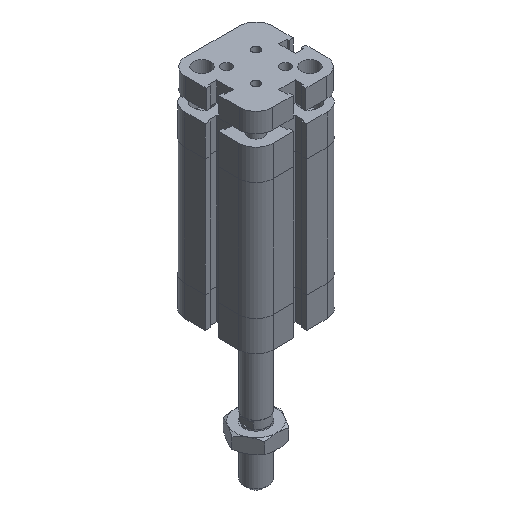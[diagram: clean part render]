
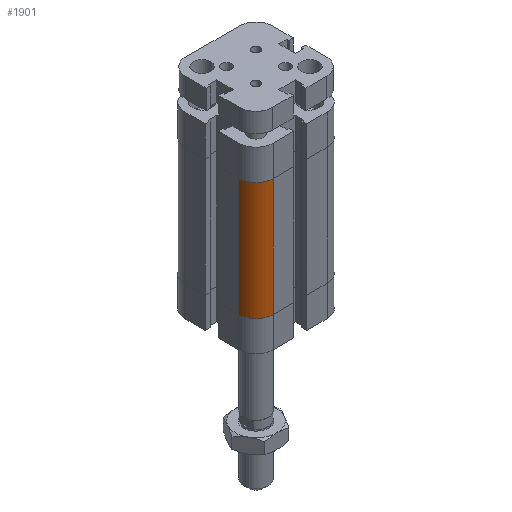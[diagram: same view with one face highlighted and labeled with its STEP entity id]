
A CAD part, isometric view. The second image highlights one B-rep face of the part: STEP entity #1901.
In plain terms, the highlighted cylindrical face has radius 7 mm (diameter 14 mm), a partial arc.
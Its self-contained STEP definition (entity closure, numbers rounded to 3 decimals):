
#1812=CARTESIAN_POINT('',(-18.,-11.0,12.5));
#1813=VERTEX_POINT('',#1812);
#1820=CARTESIAN_POINT('',(-18.,-11.0,60.5));
#1821=VERTEX_POINT('',#1820);
#1822=CARTESIAN_POINT('',(-18.,-11.0,12.5));
#1823=DIRECTION('',(0.0,0.0,1.0));
#1824=VECTOR('',#1823,48.);
#1825=LINE('',#1822,#1824);
#1826=EDGE_CURVE('',#1813,#1821,#1825,.T.);
#1869=CARTESIAN_POINT('',(-11.0,-11.0,0.0));
#1870=DIRECTION('',(0.0,0.0,1.0));
#1871=DIRECTION('',(1.0,0.0,0.0));
#1872=AXIS2_PLACEMENT_3D('',#1869,#1870,#1871);
#1873=CYLINDRICAL_SURFACE('',#1872,7.0);
#1874=CARTESIAN_POINT('',(-11.0,-18.,12.5));
#1875=VERTEX_POINT('',#1874);
#1876=CARTESIAN_POINT('',(-11.0,-11.0,12.5));
#1877=DIRECTION('',(0.0,0.0,1.0));
#1878=DIRECTION('',(1.0,0.0,0.0));
#1879=AXIS2_PLACEMENT_3D('',#1876,#1877,#1878);
#1880=CIRCLE('',#1879,7.0);
#1881=EDGE_CURVE('',#1813,#1875,#1880,.T.);
#1882=ORIENTED_EDGE('',*,*,#1881,.T.);
#1883=CARTESIAN_POINT('',(-11.0,-18.,60.5));
#1884=VERTEX_POINT('',#1883);
#1885=CARTESIAN_POINT('',(-11.0,-18.,12.5));
#1886=DIRECTION('',(0.0,0.0,1.0));
#1887=VECTOR('',#1886,48.);
#1888=LINE('',#1885,#1887);
#1889=EDGE_CURVE('',#1875,#1884,#1888,.T.);
#1890=ORIENTED_EDGE('',*,*,#1889,.T.);
#1891=CARTESIAN_POINT('',(-11.0,-11.0,60.5));
#1892=DIRECTION('',(0.0,0.0,1.0));
#1893=DIRECTION('',(1.0,0.0,0.0));
#1894=AXIS2_PLACEMENT_3D('',#1891,#1892,#1893);
#1895=CIRCLE('',#1894,7.0);
#1896=EDGE_CURVE('',#1821,#1884,#1895,.T.);
#1897=ORIENTED_EDGE('',*,*,#1896,.F.);
#1898=ORIENTED_EDGE('',*,*,#1826,.F.);
#1899=EDGE_LOOP('',(#1882,#1890,#1897,#1898));
#1900=FACE_OUTER_BOUND('',#1899,.T.);
#1901=ADVANCED_FACE('',(#1900),#1873,.T.);
